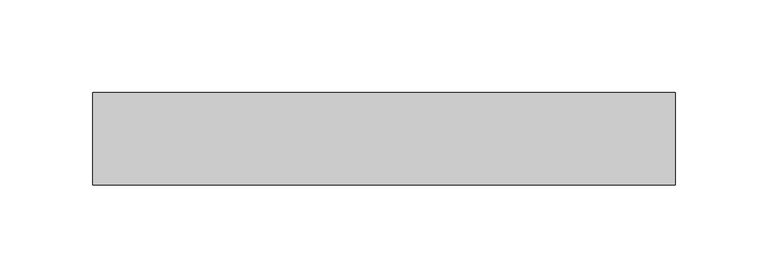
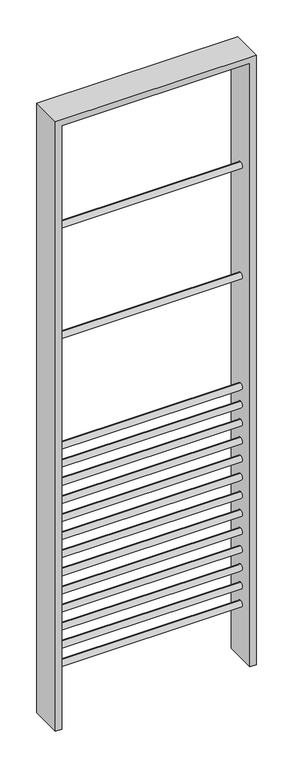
"""IFC4 building model written with IfcOpenShell, lengths in millimetres: railing geometry, Garde-corps 4 : Garde-corps 4."""

from ifc_helpers import new_model, si_unit, point, frame, frame_2d, origin, place, context, project, spatial, polyline, circle_curve, trimmed, segment, composite_curve, outline, extrude, source, transform, mapped, element, save


def railing_a068bfe2(model_context):
    return source(origin(), model_context, "Body", "SweptSolid", [
        extrude(outline(composite_curve([segment(trimmed(circle_curve(frame_2d((1317.0685723, 6136.7)), 5.0), [point((1317.0685723, 6141.7))], [point((1317.0685723, 6131.7))], False, "CARTESIAN"), True, "CONTINUOUS"), segment(trimmed(circle_curve(frame_2d((1317.0685723, 6136.7)), 5.0), [point((1317.0685723, 6131.7))], [point((1317.0685723, 6141.7))], False, "CARTESIAN"), True, "CONTINUOUS")], self_intersect=False)), frame((10368.2466393, 0.0, 0.0), z_axis=(1.0, 0.0, 0.0), x_axis=(0.0, 1.0, 0.0)), (0.0, 0.0, 1.0), 294.8276785),
        extrude(outline(composite_curve([segment(trimmed(circle_curve(frame_2d((1317.0685723, 5953.4)), 5.0), [point((1317.0685723, 5958.4))], [point((1317.0685723, 5948.4))], False, "CARTESIAN"), True, "CONTINUOUS"), segment(trimmed(circle_curve(frame_2d((1317.0685723, 5953.4)), 5.0), [point((1317.0685723, 5948.4))], [point((1317.0685723, 5958.4))], False, "CARTESIAN"), True, "CONTINUOUS")], self_intersect=False)), frame((10368.2466393, 0.0, 0.0), z_axis=(1.0, 0.0, 0.0), x_axis=(0.0, 1.0, 0.0)), (0.0, 0.0, 1.0), 294.8276785),
        extrude(outline(composite_curve([segment(trimmed(circle_curve(frame_2d((1317.0685723, 5770.1)), 5.0), [point((1317.0685723, 5775.1))], [point((1317.0685723, 5765.1))], False, "CARTESIAN"), True, "CONTINUOUS"), segment(trimmed(circle_curve(frame_2d((1317.0685723, 5770.1)), 5.0), [point((1317.0685723, 5765.1))], [point((1317.0685723, 5775.1))], False, "CARTESIAN"), True, "CONTINUOUS")], self_intersect=False)), frame((10368.2466393, 0.0, 0.0), z_axis=(1.0, 0.0, 0.0), x_axis=(0.0, 1.0, 0.0)), (0.0, 0.0, 1.0), 294.8276785),
        extrude(outline(composite_curve([segment(trimmed(circle_curve(frame_2d((1317.0685723, 5740.1)), 5.0), [point((1317.0685723, 5745.1))], [point((1317.0685723, 5735.1))], False, "CARTESIAN"), True, "CONTINUOUS"), segment(trimmed(circle_curve(frame_2d((1317.0685723, 5740.1)), 5.0), [point((1317.0685723, 5735.1))], [point((1317.0685723, 5745.1))], False, "CARTESIAN"), True, "CONTINUOUS")], self_intersect=False)), frame((10368.2466393, 0.0, 0.0), z_axis=(1.0, 0.0, 0.0), x_axis=(0.0, 1.0, 0.0)), (0.0, 0.0, 1.0), 294.8276785),
        extrude(outline(composite_curve([segment(trimmed(circle_curve(frame_2d((1317.0685723, 5710.1)), 5.0), [point((1317.0685723, 5715.1))], [point((1317.0685723, 5705.1))], False, "CARTESIAN"), True, "CONTINUOUS"), segment(trimmed(circle_curve(frame_2d((1317.0685723, 5710.1)), 5.0), [point((1317.0685723, 5705.1))], [point((1317.0685723, 5715.1))], False, "CARTESIAN"), True, "CONTINUOUS")], self_intersect=False)), frame((10368.2466393, 0.0, 0.0), z_axis=(1.0, 0.0, 0.0), x_axis=(0.0, 1.0, 0.0)), (0.0, 0.0, 1.0), 294.8276785),
        extrude(outline(composite_curve([segment(trimmed(circle_curve(frame_2d((1317.0685723, 5680.1)), 5.0), [point((1317.0685723, 5685.1))], [point((1317.0685723, 5675.1))], False, "CARTESIAN"), True, "CONTINUOUS"), segment(trimmed(circle_curve(frame_2d((1317.0685723, 5680.1)), 5.0), [point((1317.0685723, 5675.1))], [point((1317.0685723, 5685.1))], False, "CARTESIAN"), True, "CONTINUOUS")], self_intersect=False)), frame((10368.2466393, 0.0, 0.0), z_axis=(1.0, 0.0, 0.0), x_axis=(0.0, 1.0, 0.0)), (0.0, 0.0, 1.0), 294.8276785),
        extrude(outline(composite_curve([segment(trimmed(circle_curve(frame_2d((1317.0685723, 5650.1)), 5.0), [point((1317.0685723, 5655.1))], [point((1317.0685723, 5645.1))], False, "CARTESIAN"), True, "CONTINUOUS"), segment(trimmed(circle_curve(frame_2d((1317.0685723, 5650.1)), 5.0), [point((1317.0685723, 5645.1))], [point((1317.0685723, 5655.1))], False, "CARTESIAN"), True, "CONTINUOUS")], self_intersect=False)), frame((10368.2466393, 0.0, 0.0), z_axis=(1.0, 0.0, 0.0), x_axis=(0.0, 1.0, 0.0)), (0.0, 0.0, 1.0), 294.8276785),
        extrude(outline(composite_curve([segment(trimmed(circle_curve(frame_2d((1317.0685723, 5620.1)), 5.0), [point((1317.0685723, 5625.1))], [point((1317.0685723, 5615.1))], False, "CARTESIAN"), True, "CONTINUOUS"), segment(trimmed(circle_curve(frame_2d((1317.0685723, 5620.1)), 5.0), [point((1317.0685723, 5615.1))], [point((1317.0685723, 5625.1))], False, "CARTESIAN"), True, "CONTINUOUS")], self_intersect=False)), frame((10368.2466393, 0.0, 0.0), z_axis=(1.0, 0.0, 0.0), x_axis=(0.0, 1.0, 0.0)), (0.0, 0.0, 1.0), 294.8276785),
        extrude(outline(composite_curve([segment(trimmed(circle_curve(frame_2d((1317.0685723, 5590.1)), 5.0), [point((1317.0685723, 5595.1))], [point((1317.0685723, 5585.1))], False, "CARTESIAN"), True, "CONTINUOUS"), segment(trimmed(circle_curve(frame_2d((1317.0685723, 5590.1)), 5.0), [point((1317.0685723, 5585.1))], [point((1317.0685723, 5595.1))], False, "CARTESIAN"), True, "CONTINUOUS")], self_intersect=False)), frame((10368.2466393, 0.0, 0.0), z_axis=(1.0, 0.0, 0.0), x_axis=(0.0, 1.0, 0.0)), (0.0, 0.0, 1.0), 294.8276785),
        extrude(outline(composite_curve([segment(trimmed(circle_curve(frame_2d((1317.0685723, 5560.1)), 5.0), [point((1317.0685723, 5565.1))], [point((1317.0685723, 5555.1))], False, "CARTESIAN"), True, "CONTINUOUS"), segment(trimmed(circle_curve(frame_2d((1317.0685723, 5560.1)), 5.0), [point((1317.0685723, 5555.1))], [point((1317.0685723, 5565.1))], False, "CARTESIAN"), True, "CONTINUOUS")], self_intersect=False)), frame((10368.2466393, 0.0, 0.0), z_axis=(1.0, 0.0, 0.0), x_axis=(0.0, 1.0, 0.0)), (0.0, 0.0, 1.0), 294.8276785),
        extrude(outline(composite_curve([segment(trimmed(circle_curve(frame_2d((1317.0685723, 5530.1)), 5.0), [point((1317.0685723, 5535.1))], [point((1317.0685723, 5525.1))], False, "CARTESIAN"), True, "CONTINUOUS"), segment(trimmed(circle_curve(frame_2d((1317.0685723, 5530.1)), 5.0), [point((1317.0685723, 5525.1))], [point((1317.0685723, 5535.1))], False, "CARTESIAN"), True, "CONTINUOUS")], self_intersect=False)), frame((10368.2466393, 0.0, 0.0), z_axis=(1.0, 0.0, 0.0), x_axis=(0.0, 1.0, 0.0)), (0.0, 0.0, 1.0), 294.8276785),
        extrude(outline(composite_curve([segment(trimmed(circle_curve(frame_2d((1317.0685723, 5500.1)), 5.0), [point((1317.0685723, 5505.1))], [point((1317.0685723, 5495.1))], False, "CARTESIAN"), True, "CONTINUOUS"), segment(trimmed(circle_curve(frame_2d((1317.0685723, 5500.1)), 5.0), [point((1317.0685723, 5495.1))], [point((1317.0685723, 5505.1))], False, "CARTESIAN"), True, "CONTINUOUS")], self_intersect=False)), frame((10368.2466393, 0.0, 0.0), z_axis=(1.0, 0.0, 0.0), x_axis=(0.0, 1.0, 0.0)), (0.0, 0.0, 1.0), 294.8276785),
        extrude(outline(composite_curve([segment(trimmed(circle_curve(frame_2d((1317.0685723, 5470.1)), 5.0), [point((1317.0685723, 5475.1))], [point((1317.0685723, 5465.1))], False, "CARTESIAN"), True, "CONTINUOUS"), segment(trimmed(circle_curve(frame_2d((1317.0685723, 5470.1)), 5.0), [point((1317.0685723, 5465.1))], [point((1317.0685723, 5475.1))], False, "CARTESIAN"), True, "CONTINUOUS")], self_intersect=False)), frame((10368.2466393, 0.0, 0.0), z_axis=(1.0, 0.0, 0.0), x_axis=(0.0, 1.0, 0.0)), (0.0, 0.0, 1.0), 294.8276785),
        extrude(outline(composite_curve([segment(trimmed(circle_curve(frame_2d((1317.0685723, 5440.1)), 5.0), [point((1317.0685723, 5445.1))], [point((1317.0685723, 5435.1))], False, "CARTESIAN"), True, "CONTINUOUS"), segment(trimmed(circle_curve(frame_2d((1317.0685723, 5440.1)), 5.0), [point((1317.0685723, 5435.1))], [point((1317.0685723, 5445.1))], False, "CARTESIAN"), True, "CONTINUOUS")], self_intersect=False)), frame((10368.2466393, 0.0, 0.0), z_axis=(1.0, 0.0, 0.0), x_axis=(0.0, 1.0, 0.0)), (0.0, 0.0, 1.0), 294.8276785),
        extrude(outline(composite_curve([segment(trimmed(circle_curve(frame_2d((1317.0685723, 5410.1)), 5.0), [point((1317.0685723, 5415.1))], [point((1317.0685723, 5405.1))], False, "CARTESIAN"), True, "CONTINUOUS"), segment(trimmed(circle_curve(frame_2d((1317.0685723, 5410.1)), 5.0), [point((1317.0685723, 5405.1))], [point((1317.0685723, 5415.1))], False, "CARTESIAN"), True, "CONTINUOUS")], self_intersect=False)), frame((10368.2466393, 0.0, 0.0), z_axis=(1.0, 0.0, 0.0), x_axis=(0.0, 1.0, 0.0)), (0.0, 0.0, 1.0), 294.8276785),
        extrude(outline(polyline([(6330.0, 10673.0743178), (6330.0, 10358.2466393), (5320.0, 10358.2466393), (5320.0, 10368.2466393), (6320.0, 10368.2466393), (6320.0, 10663.0743178), (5320.0, 10663.0743178), (5320.0, 10673.0743178), (6330.0, 10673.0743178)])), frame((0.0, 1292.0685723, 0.0), z_axis=(0.0, 1.0, 0.0), x_axis=(0.0, 0.0, 1.0)), (0.0, 0.0, 1.0), 50.0),
    ])


if __name__ == "__main__":
    model = new_model("IFC4")
    model_context = context("Model", 3, world=origin())
    ifc_project = project(units=[si_unit("LENGTHUNIT", "METRE", prefix="MILLI")], contexts=[model_context])
    site = spatial("IfcSite", under=ifc_project)
    building = spatial("IfcBuilding", under=site)
    placement = place(None, origin())
    railing_shape = railing_a068bfe2(model_context)
    element("IfcRailing", 1, ObjectType="Garde-corps 4 : Garde-corps 4", at=placement, inside=building, context=model_context, shape_type="MappedRepresentation", body=[
        mapped(railing_shape, transform((0.0, 0.0, 0.0), x_axis=(1.0, 0.0, 0.0), y_axis=(0.0, 1.0, 0.0), z_axis=(0.0, 0.0, 1.0))),
    ])
    save(model, "model.ifc")
